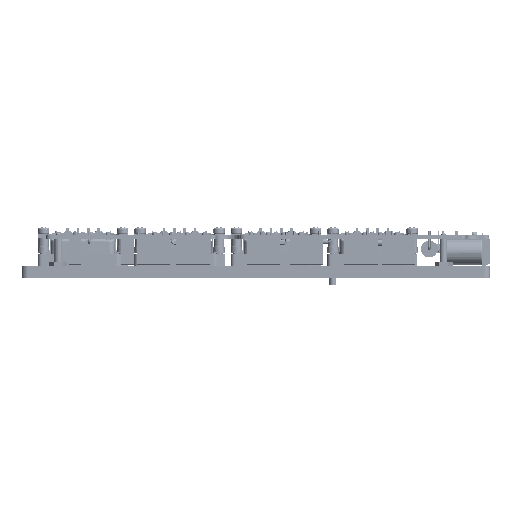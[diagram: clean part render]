
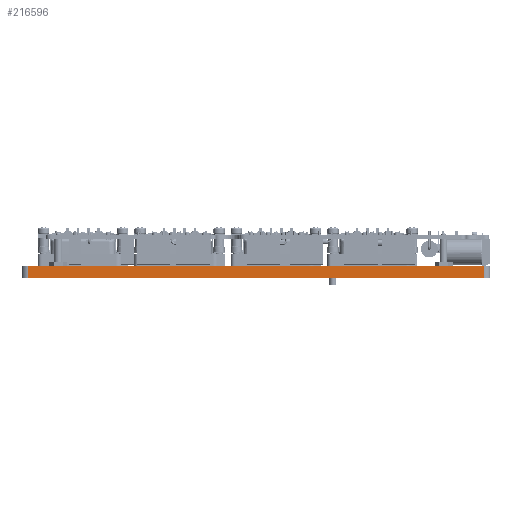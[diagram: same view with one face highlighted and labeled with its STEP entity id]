
A CAD part, left-side view. The second image highlights one B-rep face of the part: STEP entity #216596.
In plain terms, the highlighted planar face has unit normal (-1, 0, 0).
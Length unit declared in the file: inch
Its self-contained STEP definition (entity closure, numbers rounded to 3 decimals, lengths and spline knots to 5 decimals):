
#18250 = EDGE_LOOP ( 'NONE', ( #235465, #235469, #235468, #235471 ) ) ;
#64083 = AXIS2_PLACEMENT_3D ( 'NONE', #77077, #77078, #77080 ) ;
#77075 = PLANE ( 'NONE',  #64083 ) ;
#77077 = CARTESIAN_POINT ( 'NONE',  ( -3.62742, -3.68083, 0.18783 ) ) ;
#77078 = DIRECTION ( 'NONE',  ( -1., 0., 0. ) ) ;
#77080 = DIRECTION ( 'NONE',  ( 0., 0., 1. ) ) ;
#78761 = FACE_OUTER_BOUND ( 'NONE', #18250, .T. ) ;
#118631 = LINE ( 'NONE', #166384, #161738 ) ;
#118632 = LINE ( 'NONE', #166389, #161743 ) ;
#118633 = LINE ( 'NONE', #166398, #161744 ) ;
#148313 = CARTESIAN_POINT ( 'NONE',  ( -3.62742, -3.68083, -0.00074 ) ) ;
#148315 = CARTESIAN_POINT ( 'NONE',  ( -3.62742, 3.68087, -0.00074 ) ) ;
#156301 = CARTESIAN_POINT ( 'NONE',  ( -3.62742, 3.68087, 0.18783 ) ) ;
#156305 = CARTESIAN_POINT ( 'NONE',  ( -3.62742, -3.68083, 0.18783 ) ) ;
#161738 = VECTOR ( 'NONE', #166387, 39.37008 ) ;
#161743 = VECTOR ( 'NONE', #166392, 39.37008 ) ;
#161744 = VECTOR ( 'NONE', #166401, 39.37008 ) ;
#166384 = CARTESIAN_POINT ( 'NONE',  ( -3.62742, -3.68083, 0.18783 ) ) ;
#166387 = DIRECTION ( 'NONE',  ( 0., 0., -1. ) ) ;
#166389 = CARTESIAN_POINT ( 'NONE',  ( -3.62742, -3.7711, -0.00074 ) ) ;
#166392 = DIRECTION ( 'NONE',  ( 0., 1., 0. ) ) ;
#166398 = CARTESIAN_POINT ( 'NONE',  ( -3.62742, 3.68087, -0.00074 ) ) ;
#166401 = DIRECTION ( 'NONE',  ( 0., 0., 1. ) ) ;
#196319 = EDGE_CURVE ( 'NONE', #229212, #229208, #332813, .T. ) ;
#216596 = ADVANCED_FACE ( 'NONE', ( #78761 ), #77075, .T. ) ;
#223313 = VERTEX_POINT ( 'NONE', #148313 ) ;
#223314 = VERTEX_POINT ( 'NONE', #148315 ) ;
#229208 = VERTEX_POINT ( 'NONE', #156301 ) ;
#229212 = VERTEX_POINT ( 'NONE', #156305 ) ;
#235465 = ORIENTED_EDGE ( 'NONE', *, *, #244369, .F. ) ;
#235468 = ORIENTED_EDGE ( 'NONE', *, *, #196319, .T. ) ;
#235469 = ORIENTED_EDGE ( 'NONE', *, *, #244366, .F. ) ;
#235471 = ORIENTED_EDGE ( 'NONE', *, *, #244371, .F. ) ;
#244366 = EDGE_CURVE ( 'NONE', #229212, #223313, #118631, .T. ) ;
#244369 = EDGE_CURVE ( 'NONE', #223313, #223314, #118632, .T. ) ;
#244371 = EDGE_CURVE ( 'NONE', #223314, #229208, #118633, .T. ) ;
#332813 = LINE ( 'NONE', #337391, #342851 ) ;
#337391 = CARTESIAN_POINT ( 'NONE',  ( -3.62742, -3.68083, 0.18783 ) ) ;
#337393 = DIRECTION ( 'NONE',  ( 0., 1., 0. ) ) ;
#342851 = VECTOR ( 'NONE', #337393, 39.37008 ) ;
